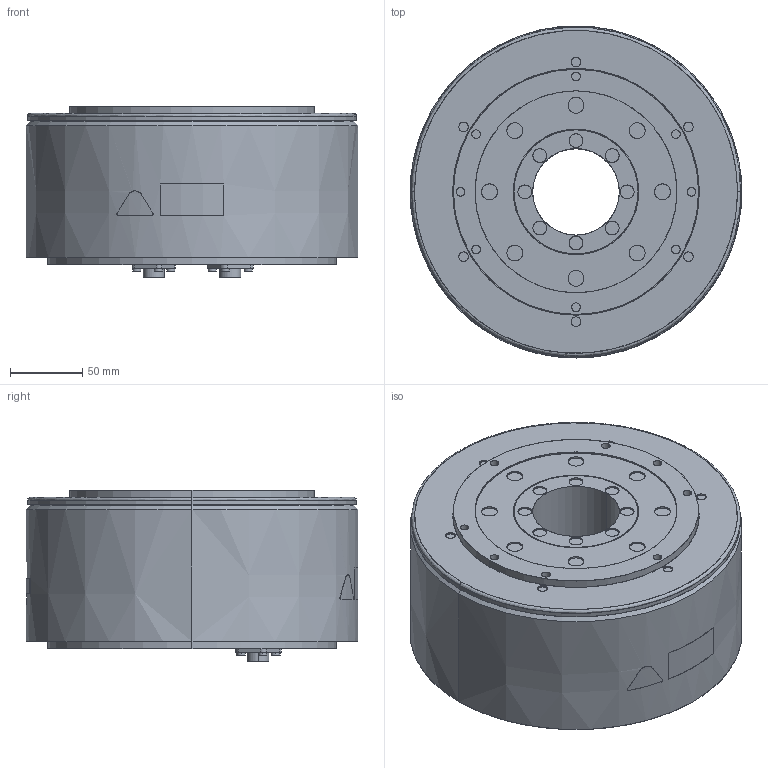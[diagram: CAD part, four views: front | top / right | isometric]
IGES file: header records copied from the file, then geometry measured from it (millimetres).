
Start section: SolidWorks IGES file using analytic representation for surfaces
Bounding box: 230 x 230.2 x 119.1 mm (x, y, z)
Surface area: 184608.6 mm2 (no closed solid volume)
Topology: 0 solids, 0 shells, 336 faces, 6911 edges, 6911 vertices
Faces by surface type: revolution 193, bspline 143
